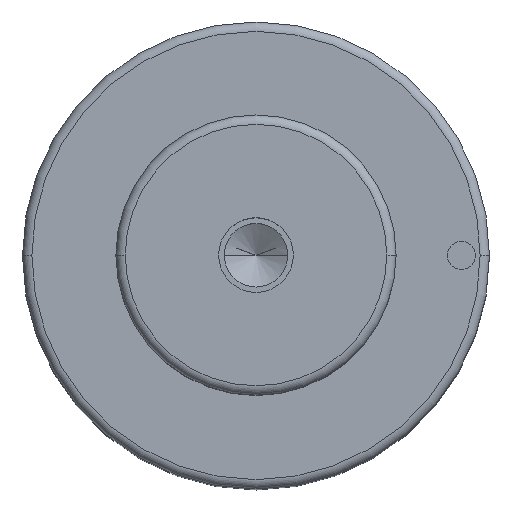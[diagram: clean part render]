
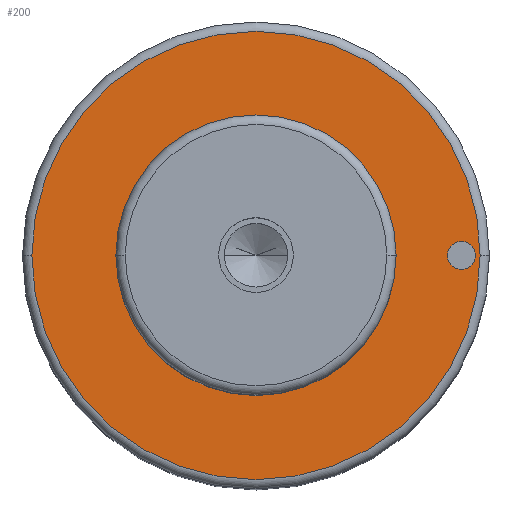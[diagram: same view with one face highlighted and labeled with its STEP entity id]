
A CAD part, top view. The second image highlights one B-rep face of the part: STEP entity #200.
In plain terms, the highlighted planar face has unit normal (0, 0, 1).
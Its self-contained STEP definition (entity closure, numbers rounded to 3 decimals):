
#99=PLANE('',#596);
#107=FACE_BOUND('',#265,.T.);
#108=FACE_BOUND('',#266,.T.);
#109=FACE_BOUND('',#267,.T.);
#200=ADVANCED_FACE('',(#107,#108,#109),#99,.T.);
#265=EDGE_LOOP('',(#359,#360));
#266=EDGE_LOOP('',(#361,#362));
#267=EDGE_LOOP('',(#363,#364));
#359=ORIENTED_EDGE('',*,*,#460,.F.);
#360=ORIENTED_EDGE('',*,*,#461,.F.);
#361=ORIENTED_EDGE('',*,*,#485,.F.);
#362=ORIENTED_EDGE('',*,*,#486,.F.);
#363=ORIENTED_EDGE('',*,*,#456,.T.);
#364=ORIENTED_EDGE('',*,*,#454,.T.);
#411=VERTEX_POINT('',#808);
#412=VERTEX_POINT('',#810);
#413=VERTEX_POINT('',#816);
#416=VERTEX_POINT('',#821);
#430=VERTEX_POINT('',#875);
#431=VERTEX_POINT('',#876);
#454=EDGE_CURVE('',#412,#411,#513,.T.);
#456=EDGE_CURVE('',#411,#412,#514,.T.);
#460=EDGE_CURVE('',#416,#413,#518,.T.);
#461=EDGE_CURVE('',#413,#416,#519,.T.);
#485=EDGE_CURVE('',#430,#431,#533,.T.);
#486=EDGE_CURVE('',#431,#430,#534,.T.);
#513=CIRCLE('',#558,15.);
#514=CIRCLE('',#560,15.);
#518=CIRCLE('',#565,24.);
#519=CIRCLE('',#567,24.);
#533=CIRCLE('',#594,1.5);
#534=CIRCLE('',#595,1.5);
#558=AXIS2_PLACEMENT_3D('',#809,#647,#648);
#560=AXIS2_PLACEMENT_3D('',#813,#652,#653);
#565=AXIS2_PLACEMENT_3D('',#822,#662,#663);
#567=AXIS2_PLACEMENT_3D('',#824,#666,#667);
#594=AXIS2_PLACEMENT_3D('',#874,#730,#731);
#595=AXIS2_PLACEMENT_3D('',#877,#732,#733);
#596=AXIS2_PLACEMENT_3D('',#878,#734,#735);
#647=DIRECTION('',(0.,0.,-1.));
#648=DIRECTION('',(0.,1.,0.));
#652=DIRECTION('',(0.,0.,-1.));
#653=DIRECTION('',(0.,-1.,0.));
#662=DIRECTION('',(0.,0.,-1.));
#663=DIRECTION('',(0.,1.,0.));
#666=DIRECTION('',(0.,0.,-1.));
#667=DIRECTION('',(0.,-1.,0.));
#730=DIRECTION('',(0.,0.,1.));
#731=DIRECTION('',(0.,1.,0.));
#732=DIRECTION('',(0.,0.,1.));
#733=DIRECTION('',(0.,-1.,0.));
#734=DIRECTION('',(0.,0.,1.));
#735=DIRECTION('',(0.,-1.,0.));
#808=CARTESIAN_POINT('',(-15.,0.,64.));
#809=CARTESIAN_POINT('',(0.,0.,64.));
#810=CARTESIAN_POINT('',(15.,0.,64.));
#813=CARTESIAN_POINT('',(0.,0.,64.));
#816=CARTESIAN_POINT('',(-24.,0.,64.));
#821=CARTESIAN_POINT('',(24.,0.,64.));
#822=CARTESIAN_POINT('',(0.,0.,64.));
#824=CARTESIAN_POINT('',(0.,0.,64.));
#874=CARTESIAN_POINT('',(22.,0.,64.));
#875=CARTESIAN_POINT('',(20.5,0.,64.));
#876=CARTESIAN_POINT('',(23.5,0.,64.));
#877=CARTESIAN_POINT('',(22.,0.,64.));
#878=CARTESIAN_POINT('',(0.,0.,64.));
